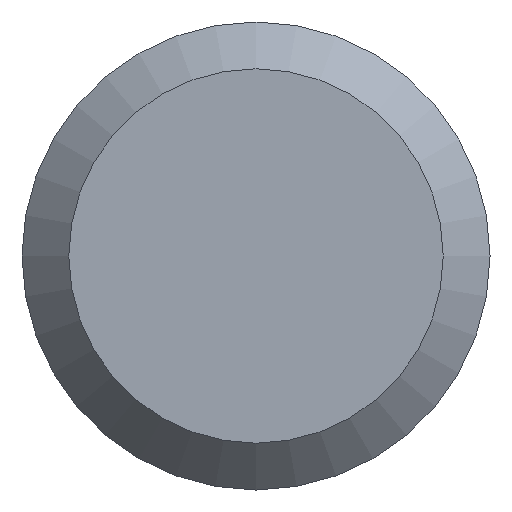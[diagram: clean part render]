
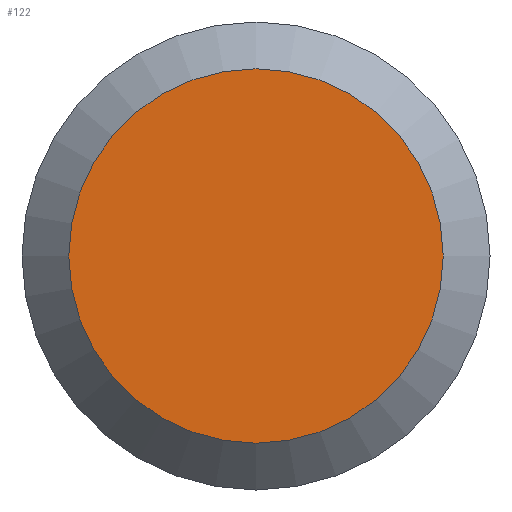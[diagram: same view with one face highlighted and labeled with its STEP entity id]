
A CAD part, front view. The second image highlights one B-rep face of the part: STEP entity #122.
In plain terms, the highlighted planar face has unit normal (0, -1, 0).
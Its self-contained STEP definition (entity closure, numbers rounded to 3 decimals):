
#122=ADVANCED_FACE('',(#129),#127,.T.);
#127=PLANE('',#162);
#129=FACE_OUTER_BOUND('',#131,.T.);
#131=EDGE_LOOP('',(#139));
#139=ORIENTED_EDGE('',*,*,#151,.T.);
#147=VERTEX_POINT('',#193);
#151=EDGE_CURVE('',#147,#147,#155,.T.);
#155=CIRCLE('',#161,3.2);
#161=AXIS2_PLACEMENT_3D('',#192,#174,#175);
#162=AXIS2_PLACEMENT_3D('',#194,#176,#177);
#174=DIRECTION('',(0.,-1.,0.));
#175=DIRECTION('',(0.,0.,-1.));
#176=DIRECTION('',(0.,-1.,0.));
#177=DIRECTION('',(0.,0.,-1.));
#192=CARTESIAN_POINT('',(0.,0.,0.));
#193=CARTESIAN_POINT('',(0.,0.,-3.2));
#194=CARTESIAN_POINT('',(0.,0.,0.));
